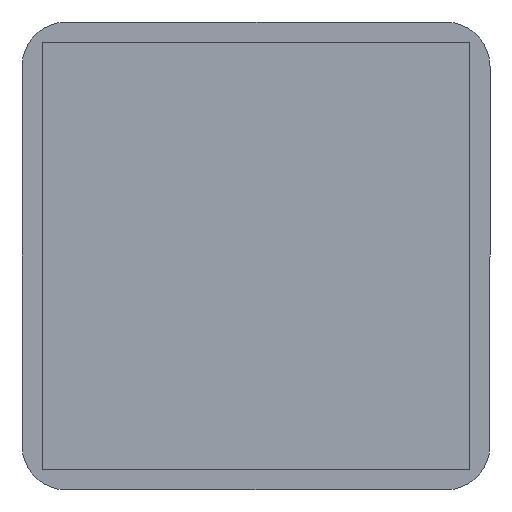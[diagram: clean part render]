
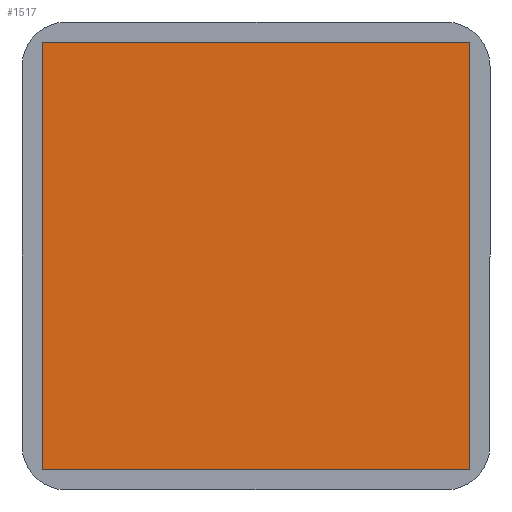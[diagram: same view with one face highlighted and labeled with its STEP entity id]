
A CAD part, front view. The second image highlights one B-rep face of the part: STEP entity #1517.
In plain terms, the highlighted planar face has unit normal (0, -1, 0).
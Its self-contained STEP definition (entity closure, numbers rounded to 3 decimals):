
#3 = EDGE_LOOP ( 'NONE', ( #351, #2652, #2534, #1526 ) ) ;
#21 = VERTEX_POINT ( 'NONE', #2370 ) ;
#35 = VECTOR ( 'NONE', #2046, 1000. ) ;
#182 = LINE ( 'NONE', #1012, #689 ) ;
#232 = DIRECTION ( 'NONE',  ( 1., 0., 0. ) ) ;
#255 = VERTEX_POINT ( 'NONE', #1570 ) ;
#351 = ORIENTED_EDGE ( 'NONE', *, *, #790, .F. ) ;
#378 = LINE ( 'NONE', #1221, #35 ) ;
#457 = LINE ( 'NONE', #1682, #2343 ) ;
#491 = CARTESIAN_POINT ( 'NONE',  ( -8.5, -0.1, 8.5 ) ) ;
#494 = AXIS2_PLACEMENT_3D ( 'NONE', #491, #756, #1332 ) ;
#541 = LINE ( 'NONE', #2197, #1624 ) ;
#592 = EDGE_CURVE ( 'NONE', #255, #21, #541, .T. ) ;
#689 = VECTOR ( 'NONE', #232, 1000. ) ;
#756 = DIRECTION ( 'NONE',  ( 0., 1., 0. ) ) ;
#790 = EDGE_CURVE ( 'NONE', #21, #1699, #378, .T. ) ;
#981 = DIRECTION ( 'NONE',  ( -1., 0., 0. ) ) ;
#1012 = CARTESIAN_POINT ( 'NONE',  ( -8.5, -0.1, 8.5 ) ) ;
#1052 = VERTEX_POINT ( 'NONE', #1272 ) ;
#1221 = CARTESIAN_POINT ( 'NONE',  ( -8.5, -0.1, -8.5 ) ) ;
#1272 = CARTESIAN_POINT ( 'NONE',  ( 8.5, -0.1, 8.5 ) ) ;
#1332 = DIRECTION ( 'NONE',  ( 0., 0., 1. ) ) ;
#1360 = FACE_OUTER_BOUND ( 'NONE', #3, .T. ) ;
#1517 = ADVANCED_FACE ( 'NONE', ( #1360 ), #2356, .F. ) ;
#1526 = ORIENTED_EDGE ( 'NONE', *, *, #1834, .F. ) ;
#1570 = CARTESIAN_POINT ( 'NONE',  ( 8.5, -0.1, -8.5 ) ) ;
#1624 = VECTOR ( 'NONE', #981, 1000. ) ;
#1682 = CARTESIAN_POINT ( 'NONE',  ( 8.5, -0.1, -8.5 ) ) ;
#1699 = VERTEX_POINT ( 'NONE', #1853 ) ;
#1764 = EDGE_CURVE ( 'NONE', #1052, #255, #457, .T. ) ;
#1834 = EDGE_CURVE ( 'NONE', #1699, #1052, #182, .T. ) ;
#1853 = CARTESIAN_POINT ( 'NONE',  ( -8.5, -0.1, 8.5 ) ) ;
#2046 = DIRECTION ( 'NONE',  ( 0., 0., 1. ) ) ;
#2197 = CARTESIAN_POINT ( 'NONE',  ( -8.5, -0.1, -8.5 ) ) ;
#2343 = VECTOR ( 'NONE', #2553, 1000. ) ;
#2356 = PLANE ( 'NONE',  #494 ) ;
#2370 = CARTESIAN_POINT ( 'NONE',  ( -8.5, -0.1, -8.5 ) ) ;
#2534 = ORIENTED_EDGE ( 'NONE', *, *, #1764, .F. ) ;
#2553 = DIRECTION ( 'NONE',  ( 0., 0., -1. ) ) ;
#2652 = ORIENTED_EDGE ( 'NONE', *, *, #592, .F. ) ;
